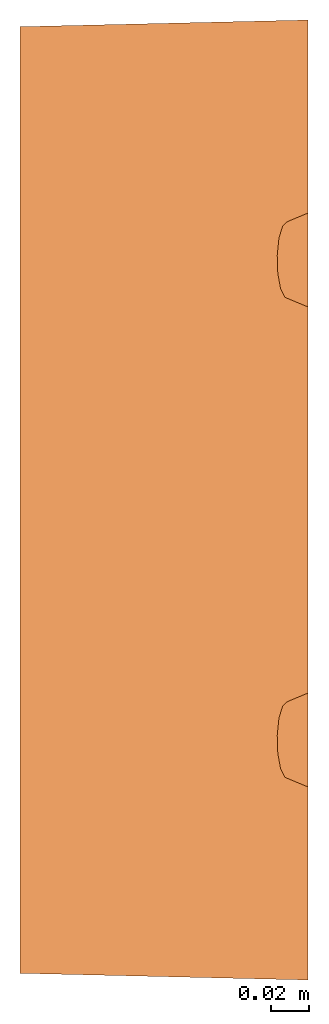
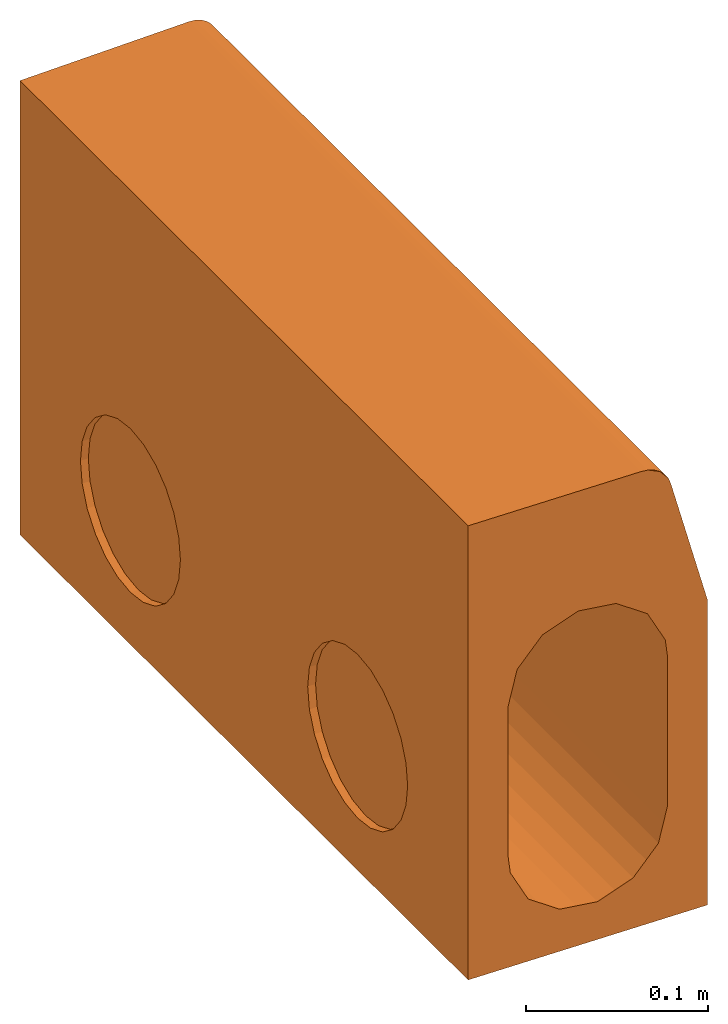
# One storey: 1 proxy.
"""IFC2X3 building model written with IfcOpenShell, lengths in millimetres."""

from ifc_helpers import new_model, entity, si_unit, converted_unit, direction, frame, origin, place, context, subcontext, project, spatial, face_set, surface_model, source, transform, mapped, material, element, save


model = new_model("IFC2X3")

# Units and contexts
model_context = context("Model", 3, precision=1e-06, world=origin(), true_north=direction((2.0, 6.12303176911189e-17, 1.0)))
context_of_model = context(None, 3, precision=1e-06, world=origin(), true_north=direction((2.0, 6.12303176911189e-17, 1.0)))
body_context = subcontext(model_context, "Body", "Model", "MODEL_VIEW")
ifc_project = project(units=[si_unit("LENGTHUNIT", "METRE", prefix="MILLI"), si_unit("AREAUNIT", "SQUARE_METRE", prefix="MILLI"), si_unit("VOLUMEUNIT", "CUBIC_METRE", prefix="MILLI"), converted_unit("PLANEANGLEUNIT", "DEGREE", entity("IfcRatioMeasure", 0.0174532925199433), si_unit("PLANEANGLEUNIT", "RADIAN"), dimensions=[0, 0, 0, 0, 0, 0, 0]), si_unit("TIMEUNIT", "SECOND")], contexts=[model_context, context_of_model])

# Site, building, storey
site_placement = place(None, origin())
site = spatial("IfcSite", under=ifc_project, at=site_placement, Name="Default", CompositionType="ELEMENT")
building_placement = place(site_placement, origin())
building = spatial("IfcBuilding", under=site, at=building_placement, CompositionType="ELEMENT")
storey_placement = place(building_placement, frame((0.0, 0.0, -300.0)))
storey = spatial("IfcBuildingStorey", under=building, at=storey_placement, Name="T.O. Fnd. Wall", CompositionType="ELEMENT", Elevation=-300.0)

# Proxy
ifc_material = material(Name="ACO Polymer Concrete.")
shared_shape = source(origin(), body_context, "Body", "SurfaceModel", [
    surface_model("IfcFaceBasedSurfaceModel", [(-75.0, 3.4999999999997, 125.0), (-75.0, 496.5, 125.0), (-75.0, 496.5, -180.0), (-75.0, 3.49999999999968, -180.0), (-75.0, 375.0, -35.0), (-75.0, 389.235047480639, -36.8740795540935), (-75.0, 402.5, -42.3686027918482), (-75.0, 413.89087296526, -51.1091270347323), (-75.0, 422.631397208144, -62.4999999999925), (-75.0, 428.125920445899, -75.7649525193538), (-75.0, 430.0, -90.0), (-75.0, 428.125920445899, -104.235047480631), (-75.0, 422.631397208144, -117.499999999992), (-75.0, 413.89087296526, -128.890872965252), (-75.0, 402.5, -137.631397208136), (-75.0, 389.235047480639, -143.125920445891), (-75.0, 375.0, -145.0), (-75.0, 360.764952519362, -143.125920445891), (-75.0, 347.5, -137.631397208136), (-75.0, 336.10912703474, -128.890872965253), (-75.0, 327.368602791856, -117.499999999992), (-75.0, 321.874079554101, -104.235047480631), (-75.0, 320.0, -90.0), (-75.0, 321.874079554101, -75.7649525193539), (-75.0, 327.368602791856, -62.4999999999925), (-75.0, 336.10912703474, -51.1091270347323), (-75.0, 347.5, -42.3686027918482), (-75.0, 360.764952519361, -36.8740795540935), (-75.0, 125.0, -35.0), (-75.0, 139.235047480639, -36.8740795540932), (-75.0, 152.5, -42.3686027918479), (-75.0, 163.890872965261, -51.109127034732), (-75.0, 172.631397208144, -62.4999999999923), (-75.0, 178.125920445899, -75.7649525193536), (-75.0, 180.0, -90.0), (-75.0, 178.125920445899, -104.235047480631), (-75.0, 172.631397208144, -117.499999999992), (-75.0, 163.89087296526, -128.890872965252), (-75.0, 152.5, -137.631397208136), (-75.0, 139.235047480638, -143.125920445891), (-75.0, 125.0, -145.0), (-75.0, 110.764952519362, -143.125920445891), (-75.0, 97.5000000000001, -137.631397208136), (-75.0, 86.10912703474, -128.890872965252), (-75.0, 77.3686027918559, -117.499999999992), (-75.0, 71.8740795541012, -104.235047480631), (-75.0, 70.0, -90.0), (-75.0, 71.8740795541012, -75.7649525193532), (-75.0, 77.3686027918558, -62.4999999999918), (-75.0, 86.1091270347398, -51.1091270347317), (-75.0, 97.5, -42.3686027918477), (-75.0, 110.764952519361, -36.874079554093), (75.0, 500.0, -180.0), (75.0, 0.0, -180.0), (75.0, 500.0, 25.0), (75.0, 399.444444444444, 25.0), (75.0, 400.0, 20.0), (75.0, 399.148145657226, 13.5295238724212), (75.0, 396.650635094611, 7.49999999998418), (75.0, 392.677669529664, 2.32233047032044), (75.0, 387.5, -1.6506350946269), (75.0, 381.470476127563, -4.14814565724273), (75.0, 375.0, -5.0), (75.0, 368.529523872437, -4.14814565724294), (75.0, 362.5, -1.65063509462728), (75.0, 357.322330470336, 2.3223304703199), (75.0, 353.349364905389, 7.49999999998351), (75.0, 350.851854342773, 13.5295238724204), (75.0, 350.0, 20.0), (75.0, 350.555555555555, 25.0), (75.0, 149.444444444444, 25.0), (75.0, 150.0, 20.0), (75.0, 149.148145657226, 13.5295238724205), (75.0, 146.650635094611, 7.49999999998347), (75.0, 142.677669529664, 2.32233047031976), (75.0, 137.5, -1.65063509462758), (75.0, 131.470476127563, -4.14814565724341), (75.0, 125.0, -5.0), (75.0, 118.529523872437, -4.14814565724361), (75.0, 112.5, -1.65063509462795), (75.0, 107.322330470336, 2.32233047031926), (75.0, 103.349364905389, 7.49999999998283), (75.0, 100.851854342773, 13.5295238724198), (75.0, 100.0, 20.0), (75.0, 100.555555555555, 25.0), (75.0, 0.0, 25.0), (33.6258679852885, 0.965396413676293, 125.0), (33.6258679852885, 499.034603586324, 125.0), (-50.0, 2.91666666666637, -105.0), (-50.0, 2.91666666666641, -5.0), (-50.0, 497.083333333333, -5.0), (-50.0, 497.083333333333, -105.0), (-28.4032376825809, 497.587251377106, 36.1491924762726), (-37.425538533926, 497.376726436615, 28.1561324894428), (-37.425538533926, 2.623262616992, 28.1561324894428), (-28.4032376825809, 2.41274221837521, 36.1491924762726), (37.425538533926, 0.876737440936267, 28.1561324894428), (40.2292577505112, 100.469803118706, 24.2282654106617), (37.1572409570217, 100.93961455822, 28.4565297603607), (-6.02683393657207, 498.109385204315, 44.6354431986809), (-17.7302438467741, 497.836291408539, 41.7508127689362), (-17.7302438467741, 2.16370573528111, 41.7508127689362), (-6.02683393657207, 1.89062613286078, 44.6354431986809), (20.3368332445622, 102.297471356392, 40.6772727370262), (17.7302438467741, 1.33629425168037, 41.7508127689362), (23.0667401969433, 1.21177608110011, 38.9500026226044), (49.0129648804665, 105.086145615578, 4.8858164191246), (49.2735458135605, 0.600283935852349, 0.982891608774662), (49.6677032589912, 109.042944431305, 0.75494049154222), (-48.5470912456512, 497.117221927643, 6.96578348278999), (-48.5470912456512, 2.88276542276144, 6.96578348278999), (6.02683393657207, 1.6093738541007, 44.6354431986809), (10.3955841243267, 102.656379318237, 43.9073808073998), (7.34169281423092, 102.69204211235, 44.2283550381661), (-44.2728018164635, 497.216961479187, 18.2361586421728), (-44.2728018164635, 2.78303211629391, 18.2361586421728), (0.0, 102.777774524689, 45.0000012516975), (0.0, 147.222218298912, 45.0000012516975), (2.14390061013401, 102.752739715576, 44.7746652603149), (0.0, 1.75000006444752, 44.6354431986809), (15.3662086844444, 102.476920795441, 42.292326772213), (4.28780122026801, 102.727704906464, 44.5493338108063), (11.8785388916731, 1.47283405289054, 43.1931257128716), (15.3662086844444, 397.523083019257, 42.292326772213), (11.8785388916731, 498.527164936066, 43.1931257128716), (10.3955841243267, 397.34362449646, 43.9073808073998), (32.9143881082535, 0.981997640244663, 32.1526636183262), (33.2732529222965, 101.328190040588, 31.9536909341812), (29.3892626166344, 101.716765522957, 35.4508498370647), (24.8630467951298, 102.007118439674, 38.064062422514), (28.4032376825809, 1.08725776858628, 36.1491924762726), (43.3012722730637, 400.000003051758, 20.0000010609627), (44.2728018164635, 499.283041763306, 18.2361586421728), (40.8491690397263, 499.203141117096, 23.1961449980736), (15.3662086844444, 352.476922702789, 42.292326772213), (10.3955841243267, 352.656381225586, 43.9073808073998), (10.3955841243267, 147.343622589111, 43.9073808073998), (15.3662086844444, 147.52307202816, 42.292326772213), (2.59889603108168, 147.252576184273, 44.7268438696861), (0.0, 352.777776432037, 45.0000012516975), (49.9955993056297, 380.720438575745, -4.33673224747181), (50.0000003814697, 375.000002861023, -5.00000026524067), (50.0000003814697, 436.725195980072, -5.00000026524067), (24.8630467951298, 352.007111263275, 38.064062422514), (20.3368332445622, 352.297464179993, 40.6772727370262), (20.3368332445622, 147.702521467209, 40.6772727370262), (24.8630467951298, 147.992883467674, 38.064062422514), (0.0, 397.222229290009, 45.0000012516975), (45.8762740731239, 100.52910182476, 14.883846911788), (44.2728018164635, 0.716967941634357, 18.2361586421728), (46.4099442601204, 0.66710128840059, 12.6009704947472), (0.0, 498.250001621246, 44.6354431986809), (49.9314453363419, 113.863562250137, -2.38257565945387), (50.0000003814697, 63.2748032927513, -5.00000026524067), (49.9955993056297, 119.279556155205, -4.33673224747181), (5.19779206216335, 397.282908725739, 44.4536910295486), (37.1572409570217, 350.939625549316, 28.4565297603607), (33.2732529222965, 351.328191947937, 31.9536909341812), (33.2732529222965, 148.67181186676, 31.9536909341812), (37.1572409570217, 149.060387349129, 28.4565297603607), (29.3892626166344, 351.716758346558, 35.4508498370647), (29.3892626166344, 148.283236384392, 35.4508498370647), (40.2292577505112, 350.469814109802, 24.2282654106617), (40.2292577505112, 149.530189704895, 24.2282654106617), (7.79668866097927, 147.313273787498, 44.1805336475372), (5.19779206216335, 352.717060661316, 44.4536910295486), (5.19779206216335, 147.282924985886, 44.4536910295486), (6.02683393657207, 498.390618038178, 44.6354431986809), (28.4032376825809, 498.912751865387, 36.1491924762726), (23.0667401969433, 498.78823184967, 38.9500026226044), (24.8630467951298, 397.992894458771, 38.064062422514), (32.9143881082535, 499.018014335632, 32.1526636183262), (29.3892626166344, 398.283247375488, 35.4508498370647), (20.3368332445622, 397.702541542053, 40.6772727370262), (17.7302438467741, 498.663711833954, 41.7508127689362), (47.7841336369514, 397.78861913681, 9.71994177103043), (46.4099442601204, 499.332893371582, 12.6009704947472), (45.8762740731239, 399.470892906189, 14.883846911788), (43.3012722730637, 100.000000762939, 20.0000010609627), (40.8491690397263, 0.796852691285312, 23.1961449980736), (48.5470912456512, 0.617234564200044, 6.96578348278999), (47.7841336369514, 102.211393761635, 9.71994177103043), (47.7841336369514, 352.211386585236, 9.71994177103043), (45.8762740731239, 350.529112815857, 14.883846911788), (45.8762740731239, 149.470900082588, 14.883846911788), (47.7841336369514, 147.788599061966, 9.71994177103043), (43.3012722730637, 350.000002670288, 20.0000010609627), (43.3012722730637, 150.000001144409, 20.0000010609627), (50.0000003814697, 0.583333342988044, -5.00000026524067), (50.0000003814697, 125.000000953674, -5.00000026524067), (49.6677032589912, 359.042946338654, 0.75494049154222), (49.0129648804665, 355.086138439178, 4.8858164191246), (49.0129648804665, 144.913847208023, 4.8858164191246), (49.6677032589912, 140.957057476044, 0.75494049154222), (50.0000003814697, 251.549598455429, -5.00000026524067), (49.9314453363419, 136.136439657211, -2.38257565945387), (50.0000003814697, 186.725194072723, -5.00000026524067), (49.9955993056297, 130.720445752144, -4.33673224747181), (49.9314453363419, 386.136423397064, -2.38257565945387), (49.2735458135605, 499.399713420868, 0.982891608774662), (49.6677032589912, 390.957059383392, 0.75494049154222), (49.9314453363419, 363.86354598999, -2.38257565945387), (50.0000003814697, 313.274809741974, -5.00000026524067), (49.9955993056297, 369.279567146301, -4.33673224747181), (48.5470912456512, 499.38278131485, 6.96578348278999), (49.0129648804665, 394.913867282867, 4.8858164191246), (40.2292577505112, 399.530191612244, 24.2282654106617), (37.425538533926, 499.123276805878, 28.1561324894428), (37.1572409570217, 399.060380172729, 28.4565297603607), (50.0000003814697, 499.416681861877, -5.00000026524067), (33.2732529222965, 398.671813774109, 31.9536909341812), (50.0, 0.583333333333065, -105.0), (50.0, 499.416666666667, -105.0), (48.5470912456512, 499.38278131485, -116.965780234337), (48.5470912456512, 0.617234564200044, -116.965780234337), (44.2728018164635, 499.283041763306, -128.236158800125), (44.2728018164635, 0.716967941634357, -128.236158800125), (28.4032376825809, 498.912751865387, -146.149191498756), (37.425538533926, 499.123276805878, -138.15612924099), (37.425538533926, 0.876737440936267, -138.15612924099), (28.4032376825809, 1.08725776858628, -146.149191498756), (17.7302438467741, 498.663711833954, -151.75081179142), (17.7302438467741, 1.33629425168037, -151.75081179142), (6.02683393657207, 498.390618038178, -154.635437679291), (6.02683393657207, 1.6093738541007, -154.635437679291), (-6.02683393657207, 498.109385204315, -154.635437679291), (-6.02683393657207, 1.89062613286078, -154.635437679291), (-28.4032376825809, 497.587251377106, -146.149191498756), (-17.7302438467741, 497.836291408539, -151.75081179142), (-17.7302438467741, 2.16370573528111, -151.75081179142), (-28.4032376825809, 2.41274221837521, -146.149191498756), (-44.2728018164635, 497.216961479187, -128.236158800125), (-37.425538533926, 497.376726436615, -138.15612924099), (-37.425538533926, 2.623262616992, -138.15612924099), (-44.2728018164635, 2.78303211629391, -128.236158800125), (-48.5470912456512, 497.117221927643, -116.965780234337), (-48.5470912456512, 2.88276542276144, -116.965780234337), (64.2820323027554, 105.0, 65.0), (62.999543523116, 105.581163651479, 69.7863132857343), (60.7283686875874, 110.029785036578, 78.262453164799), (59.2712953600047, 117.907902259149, 83.7003248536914), (58.9621214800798, 127.410733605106, 84.8541774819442), (59.8716750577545, 136.361294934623, 81.4596773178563), (61.7915883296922, 142.709120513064, 74.2944634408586), (64.2820323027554, 145.0, 65.0), (64.2820323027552, 355.0, 65.0), (62.9995435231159, 355.581163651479, 69.7863132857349), (60.7283686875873, 360.029785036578, 78.2624531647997), (59.2712953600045, 367.907902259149, 83.7003248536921), (58.9621214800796, 377.410733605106, 84.8541774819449), (59.8716750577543, 386.361294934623, 81.459677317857), (61.7915883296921, 392.709120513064, 74.2944634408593), (64.2820323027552, 395.0, 65.0), (51.9784586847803, 499.462830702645, 110.917561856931), (51.9784586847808, 0.537169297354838, 110.917561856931), (50.479072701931, 499.427836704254, 114.773226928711), (50.479072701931, 0.572154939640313, 114.773226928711), (48.1807119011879, 499.374206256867, 118.212960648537), (48.1807119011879, 0.625783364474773, 118.212960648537), (45.1923359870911, 499.304479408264, 121.073714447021), (45.1923359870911, 0.695512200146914, 121.073714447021), (41.6556150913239, 0.778035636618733, 123.219849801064), (41.6556150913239, 499.22196264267, 123.219849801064), (37.7382215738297, 499.130543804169, 124.549619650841), (37.7382215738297, 0.869441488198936, 124.549619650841), (0.0, 145.0, 65.0), (0.0, 144.318516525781, 70.1763809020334), (0.0, 142.320508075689, 75.0), (0.0, 139.142135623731, 79.1421356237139), (0.0, 135.0, 82.3205080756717), (0.0, 130.17638090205, 84.3185165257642), (0.0, 125.0, 85.0), (0.0, 119.823619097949, 84.3185165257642), (0.0, 115.0, 82.3205080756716), (0.0, 110.857864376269, 79.1421356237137), (0.0, 107.679491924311, 75.0), (0.0, 105.681483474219, 70.1763809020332), (0.0, 105.0, 65.0), (61.7915862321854, 107.290880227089, 74.2944613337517), (59.8716770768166, 113.638703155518, 81.4596807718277), (58.9621214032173, 122.589265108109, 84.8541774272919), (59.2712958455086, 132.092100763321, 83.7003234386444), (62.9995430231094, 144.418837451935, 69.7863153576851), (60.7283698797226, 139.97021727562, 78.262455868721), (0.0, 395.0, 65.0), (0.0, 394.318516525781, 70.176380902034), (0.0, 392.320508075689, 75.0), (0.0, 389.142135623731, 79.1421356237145), (0.0, 385.0, 82.3205080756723), (0.0, 380.17638090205, 84.3185165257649), (0.0, 375.0, 85.0), (0.0, 369.82361909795, 84.3185165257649), (0.0, 365.0, 82.3205080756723), (0.0, 360.857864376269, 79.1421356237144), (0.0, 357.679491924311, 75.0), (0.0, 355.681483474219, 70.1763809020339), (0.0, 355.0, 65.0), (61.7915862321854, 357.29087305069, 74.2944613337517), (59.8716770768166, 363.638705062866, 81.4596807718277), (58.9621214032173, 372.589248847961, 84.8541774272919), (59.2712958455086, 382.092084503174, 83.7003234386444), (62.9995430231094, 394.418839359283, 69.7863153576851), (60.7283698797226, 389.970201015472, 78.262455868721), (-70.0, 375.0, -35.0), (-70.0, 389.235047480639, -36.8740795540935), (-70.0, 402.5, -42.3686027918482), (-70.0, 413.89087296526, -51.1091270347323), (-70.0, 422.631397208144, -62.4999999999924), (-70.0, 428.125920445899, -75.7649525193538), (-70.0, 430.0, -90.0), (-70.0, 428.125920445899, -104.235047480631), (-70.0, 422.631397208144, -117.499999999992), (-70.0, 413.89087296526, -128.890872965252), (-70.0, 402.5, -137.631397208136), (-70.0, 389.235047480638, -143.125920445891), (-70.0, 375.0, -145.0), (-70.0, 360.764952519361, -143.125920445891), (-70.0, 347.5, -137.631397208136), (-70.0, 336.10912703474, -128.890872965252), (-70.0, 327.368602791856, -117.499999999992), (-70.0, 321.874079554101, -104.235047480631), (-70.0, 320.0, -90.0), (-70.0, 321.874079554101, -75.7649525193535), (-70.0, 327.368602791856, -62.4999999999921), (-70.0, 336.10912703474, -51.109127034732), (-70.0, 347.5, -42.368602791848), (-70.0, 360.764952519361, -36.8740795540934), (-70.0000014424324, 125.000000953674, -144.999997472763), (-70.0000014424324, 139.235051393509, -143.125920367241), (-70.0000014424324, 152.499993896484, -137.631397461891), (-70.0000014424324, 172.63139591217, -117.500004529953), (-70.0000014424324, 163.890868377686, -128.890869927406), (-70.0000014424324, 178.12591881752, -104.235043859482), (-70.0000014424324, 180.00000500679, -90.0000025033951), (-70.0000014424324, 178.12591881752, -75.7649520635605), (-70.0000014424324, 172.63139591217, -62.5000004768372), (-70.0000014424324, 152.499993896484, -42.3686030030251), (-70.0000014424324, 163.890868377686, -51.109125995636), (-70.0000014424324, 139.235051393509, -36.8740800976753), (-70.0000014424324, 125.000000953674, -35.0000007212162), (-70.0000014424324, 110.76495051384, -36.8740800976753), (-70.0000014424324, 97.4999989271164, -42.3686030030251), (-70.0000014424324, 86.1091244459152, -51.109125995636), (-70.0000014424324, 77.3686059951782, -62.5000004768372), (-70.0000014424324, 71.8740785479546, -75.7649520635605), (-70.0000014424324, 70.0000014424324, -90.0000025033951), (-70.0000014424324, 71.8740785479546, -104.235043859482), (-70.0000014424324, 77.3686059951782, -117.500004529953), (-70.0000014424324, 86.1091244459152, -128.890869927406), (-70.0000014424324, 97.4999989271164, -137.631397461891), (-70.0000014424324, 110.76495051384, -143.125920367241)], [face_set([[[0, 1, 2, 3], [4, 5, 6, 7, 8, 9, 10, 11, 12, 13, 14, 15, 16, 17, 18, 19, 20, 21, 22, 23, 24, 25, 26, 27], [28, 29, 30, 31, 32, 33, 34, 35, 36, 37, 38, 39, 40, 41, 42, 43, 44, 45, 46, 47, 48, 49, 50, 51]], [[52, 53, 3, 2]], [[53, 52, 54, 55, 56, 57, 58, 59, 60, 61, 62, 63, 64, 65, 66, 67, 68, 69, 70, 71, 72, 73, 74, 75, 76, 77, 78, 79, 80, 81, 82, 83, 84, 85]], [[1, 0, 86, 87]], [[88, 89, 90, 91]], [[92, 93, 94, 95]], [[96, 97, 98]], [[99, 100, 101, 102]], [[103, 104, 105]], [[106, 107, 108]], [[100, 92, 95, 101]], [[109, 90, 89, 110]], [[111, 112, 113]], [[93, 114, 115, 94]], [[99, 102, 116, 117]], [[118, 119, 111]], [[114, 109, 110, 115]], [[104, 103, 120]], [[121, 118, 111]], [[116, 102, 119]], [[122, 104, 120]], [[123, 124, 125]], [[126, 127, 128]], [[98, 126, 96]], [[128, 129, 130]], [[131, 132, 133]], [[103, 105, 129]], [[112, 122, 120]], [[134, 135, 136, 137]], [[138, 139, 117]], [[140, 141, 142]], [[143, 144, 145, 146]], [[117, 139, 147, 99]], [[148, 149, 150]], [[112, 111, 122]], [[151, 99, 147]], [[128, 130, 126]], [[152, 153, 154]], [[155, 151, 147]], [[144, 134, 137, 145]], [[156, 157, 158, 159]], [[160, 143, 146, 161]], [[162, 156, 159, 163]], [[164, 165, 166]], [[125, 124, 167]], [[168, 169, 170]], [[171, 168, 172]], [[173, 169, 174]], [[174, 123, 173]], [[168, 170, 172]], [[167, 155, 125]], [[157, 160, 161, 158]], [[175, 176, 177]], [[178, 179, 149]], [[178, 149, 148]], [[164, 135, 165]], [[150, 180, 181]], [[182, 183, 184, 185]], [[150, 181, 148]], [[183, 186, 187, 184]], [[181, 180, 106]], [[186, 162, 163, 187]], [[180, 107, 106]], [[188, 153, 152]], [[152, 108, 107]], [[154, 153, 189]], [[188, 152, 107]], [[190, 191, 192, 193]], [[194, 195, 196]], [[196, 195, 197]], [[195, 194, 193]], [[198, 199, 200]], [[201, 202, 203]], [[191, 182, 185, 192]], [[204, 175, 205]], [[206, 207, 208]], [[133, 206, 131]], [[132, 177, 176]], [[177, 132, 131]], [[176, 175, 204]], [[151, 155, 167]], [[207, 171, 208]], [[194, 201, 190]], [[141, 203, 202]], [[194, 190, 193]], [[199, 204, 205]], [[140, 142, 198]], [[198, 142, 209]], [[209, 199, 198]], [[199, 205, 200]], [[208, 171, 210]], [[202, 201, 194]], [[197, 189, 196]], [[179, 97, 96]], [[124, 123, 174]], [[138, 165, 139]], [[169, 173, 170]], [[171, 172, 210]], [[207, 206, 133]], [[126, 98, 127]], [[130, 129, 105]], [[179, 178, 97]], [[165, 138, 166]], [[116, 119, 118]], [[121, 111, 113]], [[135, 164, 136]], [[189, 188, 211, 212, 209, 141]], [[213, 212, 211, 214]], [[215, 213, 214, 216]], [[217, 218, 219, 220]], [[221, 217, 220, 222]], [[218, 215, 216, 219]], [[223, 221, 222, 224]], [[225, 223, 224, 226]], [[227, 228, 229, 230]], [[228, 225, 226, 229]], [[231, 232, 233, 234]], [[91, 235, 236, 88]], [[235, 231, 234, 236]], [[232, 227, 230, 233]], [[85, 84, 237, 238, 239, 240, 241, 242, 243, 244, 70, 69, 245, 246, 247, 248, 249, 250, 251, 252, 55, 54, 253, 254]], [[254, 253, 255, 256]], [[256, 255, 257, 258]], [[259, 260, 258, 257]], [[261, 262, 263, 264]], [[264, 263, 87, 86]], [[262, 261, 260, 259]], [[265, 266, 267, 268, 269, 270, 271, 272, 273, 274, 275, 276, 277, 116, 117]], [[238, 278, 276]], [[237, 238, 277]], [[279, 240, 273]], [[239, 279, 274]], [[278, 239, 275]], [[278, 275, 276]], [[276, 277, 238]], [[279, 273, 274]], [[274, 275, 239]], [[273, 240, 272]], [[280, 271, 272]], [[280, 272, 240]], [[281, 242, 269]], [[241, 281, 270]], [[265, 244, 282]], [[267, 243, 283]], [[243, 266, 282]], [[242, 283, 268]], [[241, 270, 271]], [[281, 269, 270]], [[242, 268, 269]], [[268, 267, 283]], [[243, 267, 266]], [[266, 265, 282]], [[241, 271, 280]], [[265, 244, 70, 71, 187, 159, 145, 117]], [[71, 184, 72]], [[72, 185, 73]], [[75, 74, 193]], [[197, 77, 76]], [[192, 74, 73]], [[76, 75, 195]], [[71, 187, 184]], [[72, 184, 185]], [[76, 195, 197]], [[74, 192, 193]], [[75, 193, 195]], [[192, 73, 185]], [[197, 189, 77]], [[154, 77, 189]], [[78, 77, 154]], [[79, 152, 78]], [[81, 82, 181]], [[106, 80, 81]], [[108, 79, 80]], [[148, 82, 83]], [[152, 154, 78]], [[108, 152, 79]], [[181, 106, 81]], [[178, 148, 83]], [[181, 82, 148]], [[108, 80, 106]], [[116, 277, 237, 84, 83, 178, 128, 112]], [[284, 285, 286, 287, 288, 289, 290, 291, 292, 293, 294, 295, 296, 139, 147]], [[295, 297, 246]], [[296, 246, 245]], [[298, 248, 292]], [[247, 298, 293]], [[294, 247, 297]], [[295, 294, 297]], [[246, 296, 295]], [[298, 292, 293]], [[247, 294, 293]], [[292, 248, 291]], [[299, 290, 291]], [[299, 291, 248]], [[300, 250, 288]], [[249, 300, 289]], [[301, 252, 284]], [[302, 251, 286]], [[301, 285, 251]], [[250, 302, 287]], [[249, 289, 290]], [[300, 288, 289]], [[250, 287, 288]], [[302, 286, 287]], [[285, 286, 251]], [[301, 284, 285]], [[249, 290, 299]], [[284, 252, 55, 56, 131, 208, 173, 147]], [[57, 177, 56]], [[58, 175, 57]], [[200, 59, 60]], [[140, 62, 61]], [[58, 59, 205]], [[198, 60, 61]], [[177, 131, 56]], [[175, 177, 57]], [[140, 198, 61]], [[200, 205, 59]], [[198, 200, 60]], [[175, 58, 205]], [[140, 141, 62]], [[203, 62, 141]], [[63, 62, 203]], [[63, 201, 64]], [[182, 67, 66]], [[66, 65, 191]], [[65, 64, 190]], [[68, 67, 183]], [[63, 203, 201]], [[64, 201, 190]], [[66, 191, 182]], [[68, 183, 186]], [[183, 67, 182]], [[191, 65, 190]], [[139, 296, 245, 69, 68, 186, 160, 135]], [[2, 1, 87, 263, 259, 255, 253, 54, 52], [90, 91, 231, 227, 225, 221, 218, 213, 212, 209, 132, 168, 167, 100, 93, 109]], [[0, 86, 264, 260, 256, 254, 85, 53, 3], [88, 236, 233, 229, 224, 220, 216, 211, 188, 180, 96, 104, 102, 95, 115, 89]], [[303, 304, 305, 306, 307, 308, 309, 310, 311, 312, 313, 314, 315, 316, 317, 318, 319, 320, 321, 322, 323, 324, 325, 326]], [[315, 16, 15, 314]], [[314, 15, 14, 313]], [[312, 13, 12, 311]], [[313, 14, 13, 312]], [[311, 12, 11, 310]], [[10, 309, 310, 11]], [[309, 10, 9, 308]], [[308, 9, 8, 307]], [[306, 7, 6, 305]], [[307, 8, 7, 306]], [[305, 6, 5, 304]], [[4, 303, 304, 5]], [[326, 27, 4, 303]], [[325, 26, 27, 326]], [[323, 24, 25, 324]], [[324, 25, 26, 325]], [[322, 23, 24, 323]], [[23, 322, 321, 22]], [[320, 21, 22, 321]], [[319, 20, 21, 320]], [[318, 19, 18, 317]], [[318, 19, 20, 319]], [[317, 18, 17, 316]], [[16, 315, 316, 17]], [[327, 40, 39, 328]], [[328, 39, 38, 329]], [[330, 36, 37, 331]], [[329, 38, 37, 331]], [[332, 35, 36, 330]], [[35, 332, 333, 34]], [[334, 33, 34, 333]], [[335, 32, 33, 334]], [[336, 30, 31, 337]], [[337, 31, 32, 335]], [[338, 29, 30, 336]], [[29, 338, 339, 28]], [[339, 28, 51, 340]], [[340, 51, 50, 341]], [[342, 49, 48, 343]], [[341, 50, 49, 342]], [[343, 48, 47, 344]], [[46, 345, 344, 47]], [[345, 46, 45, 346]], [[346, 45, 44, 347]], [[348, 43, 42, 349]], [[347, 44, 43, 348]], [[349, 42, 41, 350]], [[40, 327, 350, 41]], [[339, 338, 336, 337, 335, 334, 333, 332, 330, 331, 329, 328, 327, 350, 349, 348, 347, 346, 345, 344, 343, 342, 341, 340]]])]),
])
proxy_placement = place(storey_placement, frame((-4010.98705540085, -6177.33245691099, 300.0)))
element("IfcBuildingElementProxy", 1, at=proxy_placement, inside=storey, material=ifc_material, Name="Civil-Drainage-Channel-ACO-KerbDrain-HB305 Part 2:7970 - 25-11m external mitre:7970 - 25-11m external mitre", ObjectType="7970 - 25-11m external mitre", CompositionType="ELEMENT", context=body_context, shape_type="MappedRepresentation", body=[
    mapped(shared_shape, transform((0.0, 0.0, 0.0), scale=1.0)),
])

save(model, "model.ifc")
